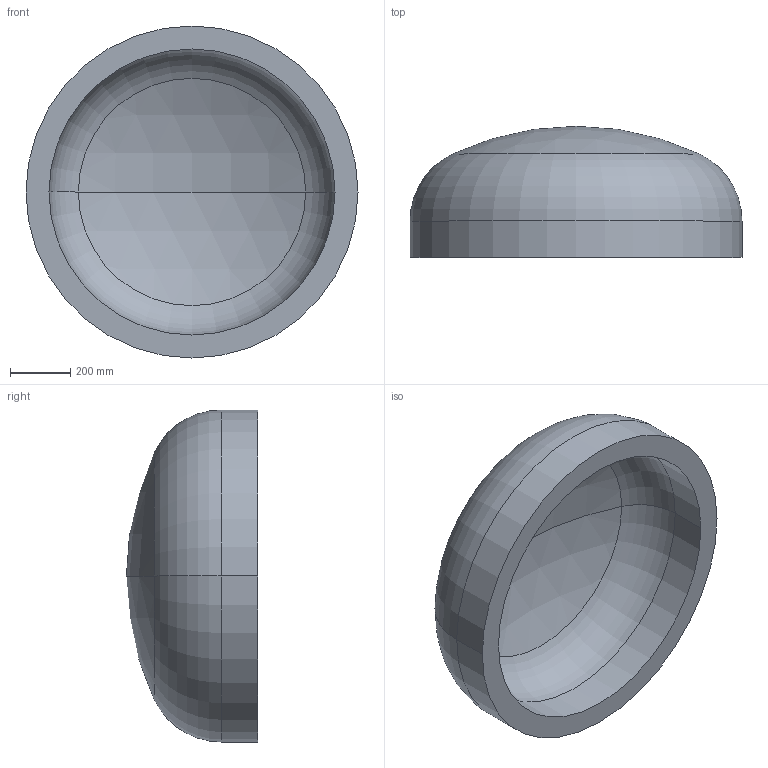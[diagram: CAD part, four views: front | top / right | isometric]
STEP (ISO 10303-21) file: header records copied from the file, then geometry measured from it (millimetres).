
FILE_DESCRIPTION (( 'STEP AP203' ), '1' );
FILE_NAME ('DIN 28013 Korbbogenform_-_Boden DIN 28013 - 1100 x 120 - I - s=76.step', '2016-07-01T09:13:01', ( '' ), ( '' ), 'SwSTEP 2.0', 'SolidWorks 2013', '' );
FILE_SCHEMA (( 'CONFIG_CONTROL_DESIGN' ));
Length unit declared in the file: millimetre
Products named in the file (1): DIN 28013 Korbbogenform_-_Boden DIN 28013 - 1100 x 120 - I - s=76
Bounding box: 1100 x 434.37 x 1100 mm (x, y, z)
Volume: 121061845 mm3; surface area: 3442425.9 mm2
Topology: 1 solids, 1 shells, 13 faces, 24 edges, 14 vertices
Faces by surface type: torus 4, cylinder 4, sphere 4, plane 1
Entity records: 407 total; most frequent: DIRECTION 72, CARTESIAN_POINT 52, ORIENTED_EDGE 48, AXIS2_PLACEMENT_3D 34, EDGE_CURVE 24, CIRCLE 20, VERTEX_POINT 14, EDGE_LOOP 14
